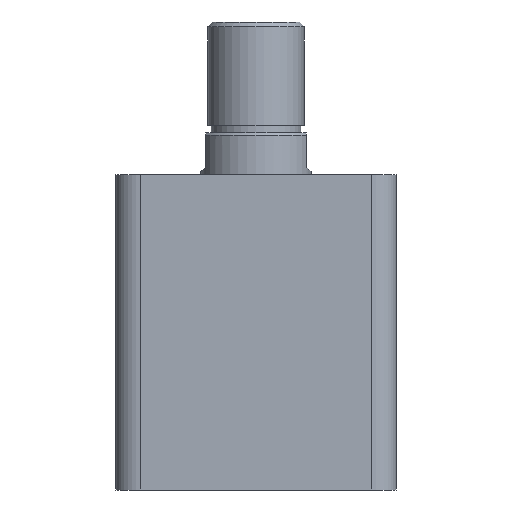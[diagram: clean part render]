
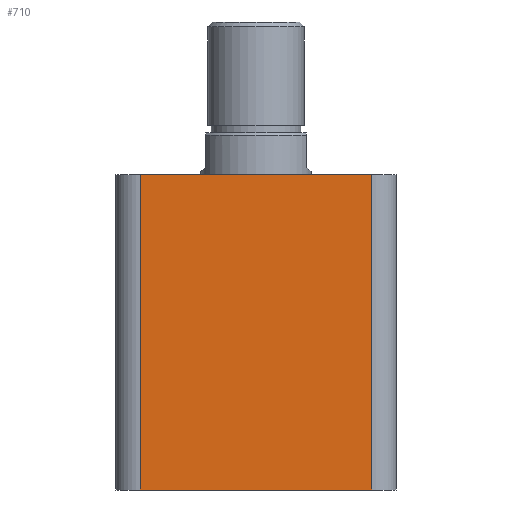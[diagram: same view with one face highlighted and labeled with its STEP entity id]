
A CAD part, front view. The second image highlights one B-rep face of the part: STEP entity #710.
In plain terms, the highlighted planar face has unit normal (0, -1, 0).
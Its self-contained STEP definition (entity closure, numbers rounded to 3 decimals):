
#95 = EDGE_LOOP ( 'NONE', ( #2607, #2598, #2673, #2689 ) ) ;
#594 = FACE_OUTER_BOUND ( 'NONE', #95, .T. ) ;
#710 = ADVANCED_FACE ( 'NONE', ( #594 ), #1718, .F. ) ;
#960 = LINE ( 'NONE', #1389, #971 ) ;
#966 = LINE ( 'NONE', #1399, #969 ) ;
#969 = VECTOR ( 'NONE', #1400, 1000. ) ;
#970 = LINE ( 'NONE', #1402, #973 ) ;
#971 = VECTOR ( 'NONE', #1401, 1000. ) ;
#972 = LINE ( 'NONE', #1404, #975 ) ;
#973 = VECTOR ( 'NONE', #1403, 1000. ) ;
#975 = VECTOR ( 'NONE', #1405, 1000. ) ;
#1389 = CARTESIAN_POINT ( 'NONE',  ( 47., -57., 128. ) ) ;
#1399 = CARTESIAN_POINT ( 'NONE',  ( -57., -57., 0. ) ) ;
#1400 = DIRECTION ( 'NONE',  ( 1., 0., 0. ) ) ;
#1401 = DIRECTION ( 'NONE',  ( 0., 0., 1. ) ) ;
#1402 = CARTESIAN_POINT ( 'NONE',  ( -57., -57., 128. ) ) ;
#1403 = DIRECTION ( 'NONE',  ( 1., 0., 0. ) ) ;
#1404 = CARTESIAN_POINT ( 'NONE',  ( -47., -57., 128. ) ) ;
#1405 = DIRECTION ( 'NONE',  ( 0., 0., -1. ) ) ;
#1716 = CARTESIAN_POINT ( 'NONE',  ( -57., -57., 128. ) ) ;
#1718 = PLANE ( 'NONE',  #2533 ) ;
#1720 = DIRECTION ( 'NONE',  ( 0., 1., 0. ) ) ;
#1721 = DIRECTION ( 'NONE',  ( 0., 0., 1. ) ) ;
#1917 = CARTESIAN_POINT ( 'NONE',  ( -47., -57., 0. ) ) ;
#1920 = CARTESIAN_POINT ( 'NONE',  ( 47., -57., 0. ) ) ;
#1921 = CARTESIAN_POINT ( 'NONE',  ( -47., -57., 128. ) ) ;
#1923 = CARTESIAN_POINT ( 'NONE',  ( 47., -57., 128. ) ) ;
#1954 = VERTEX_POINT ( 'NONE', #1917 ) ;
#1957 = VERTEX_POINT ( 'NONE', #1920 ) ;
#1958 = VERTEX_POINT ( 'NONE', #1921 ) ;
#1960 = VERTEX_POINT ( 'NONE', #1923 ) ;
#2362 = EDGE_CURVE ( 'NONE', #1954, #1957, #966, .T. ) ;
#2363 = EDGE_CURVE ( 'NONE', #1957, #1960, #960, .T. ) ;
#2364 = EDGE_CURVE ( 'NONE', #1958, #1960, #970, .T. ) ;
#2365 = EDGE_CURVE ( 'NONE', #1958, #1954, #972, .T. ) ;
#2533 = AXIS2_PLACEMENT_3D ( 'NONE', #1716, #1720, #1721 ) ;
#2598 = ORIENTED_EDGE ( 'NONE', *, *, #2363, .T. ) ;
#2607 = ORIENTED_EDGE ( 'NONE', *, *, #2362, .T. ) ;
#2673 = ORIENTED_EDGE ( 'NONE', *, *, #2364, .F. ) ;
#2689 = ORIENTED_EDGE ( 'NONE', *, *, #2365, .T. ) ;
